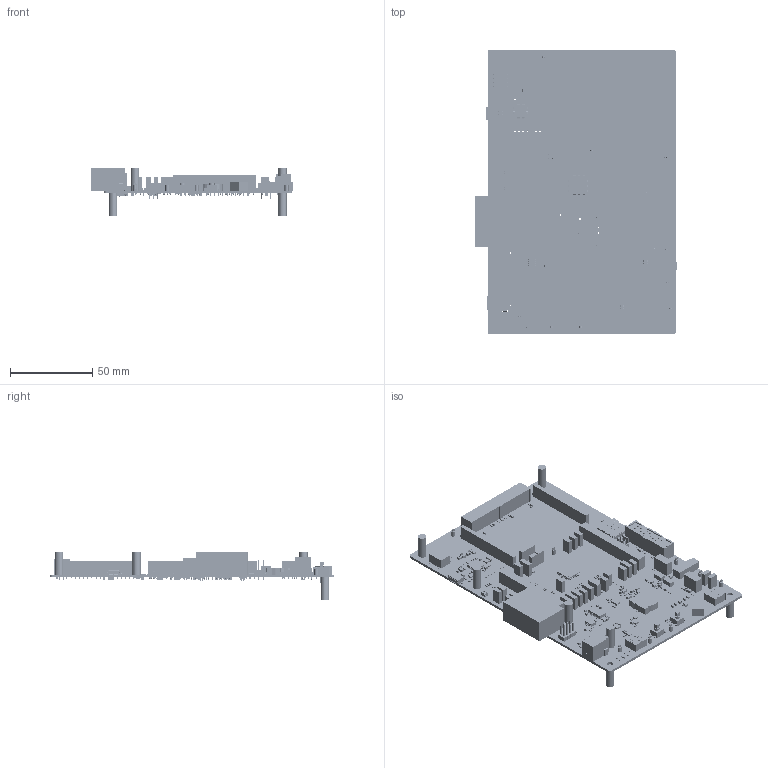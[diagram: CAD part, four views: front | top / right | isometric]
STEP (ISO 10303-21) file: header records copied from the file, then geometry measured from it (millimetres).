
FILE_DESCRIPTION(('Open CASCADE Model'),'2;1');
FILE_NAME('Open CASCADE Shape Model','2020-09-07T15:33:36',('Author'),( 'Open CASCADE'),'Open CASCADE STEP processor 6.8','Open CASCADE 6.8' ,'Unknown');
FILE_SCHEMA(('AUTOMOTIVE_DESIGN { 1 0 10303 214 1 1 1 1 }'));
Length unit declared in the file: millimetre
Products named in the file (714): PCB; Board; Open CASCADE STEP translator 6.8 2.1.1; U9; LQFP64_10X10_P050; JP11; TSW-102-07-G-S; _TSW-102-07-G-S_body; _T-1S6-07-TSW-1-07-2-S; 6621759424; Extruded; C94; C0402; 6599376576; C92; 6622870032; SB6; R0603; 6774998976; SB5; CN8; TSW-104-07-G-S; _TSW-104-07-G-S_body; _T-1S6-07-TSW-1-07-4-S; 6621760384; CN3; TSW-118-07-L-S; _TSW-118-07-L-S_body; _T-1S6-07-TSW-1-07-18-S; 6621760864; CN2; RV2; 3386P; 6622869392; Cylinder; 6622869152; 6622868672; X3; 6621763504; X2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
Assembly tree (1448 placements, depth 4):
  PCB
    Board
      Open CASCADE STEP translator 6.8 2.1.1
    U9
      LQFP64_10X10_P050
    JP11
      TSW-102-07-G-S
        _TSW-102-07-G-S_body
        _T-1S6-07-TSW-1-07-2-S
      6621759424
        Extruded
    C94
      C0402
      6599376576
        Extruded
    C92
      C0402
      6622870032
        Extruded
    SB6
      R0603
      6774998976
        Extruded
    SB5
      R0603
      6774998976
        Extruded
    CN8
      TSW-104-07-G-S
        _TSW-104-07-G-S_body
        _T-1S6-07-TSW-1-07-4-S
      6621760384
        Extruded
    CN3
      TSW-118-07-L-S
        _TSW-118-07-L-S_body
        _T-1S6-07-TSW-1-07-18-S
      6621760864
        Extruded
    CN2
      TSW-118-07-L-S
        _TSW-118-07-L-S_body
        _T-1S6-07-TSW-1-07-18-S
      6621760864
        Extruded
    RV2
      3386P
      6622869392
        Cylinder
      6622869152
        Extruded
      6622868672
        Extruded
    X3
      6621763504
        Extruded
    X2
      NX3215SA
      6621763024
        Extruded
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Bounding box: 123.08 x 172.72 x 29.61 mm (x, y, z)
Volume: 83065.5 mm3; surface area: 104080.1 mm2
Topology: 1439 solids, 3258 shells, 48114 faces, 120413 edges, 77326 vertices
Faces by surface type: plane 30430, bspline 9836, cylinder 6688, sphere 838, torus 142, revolution 106, cone 74
Full cylindrical faces by diameter (mm): 0.2 x4, 0.3 x1, 0.4 x2, 0.5 x1, 0.65 x1, 0.7 x1, 0.8 x7, 0.9 x2, 1 x204, 1.05 x8, 1.1 x56, 1.2 x20, 1.3 x1, 1.5 x8, 1.9 x8, 2 x2, 2.5 x8, 3.3 x2, 3.4 x2, 3.5 x7, 3.84 x2, 13 x1, 15 x1
Entity records: 472077 total; most frequent: CARTESIAN_POINT 95005, ORIENTED_EDGE 62678, DIRECTION 58880, EDGE_CURVE 32045, LINE 26580, VECTOR 26580, VERTEX_POINT 21110, AXIS2_PLACEMENT_3D 16145
